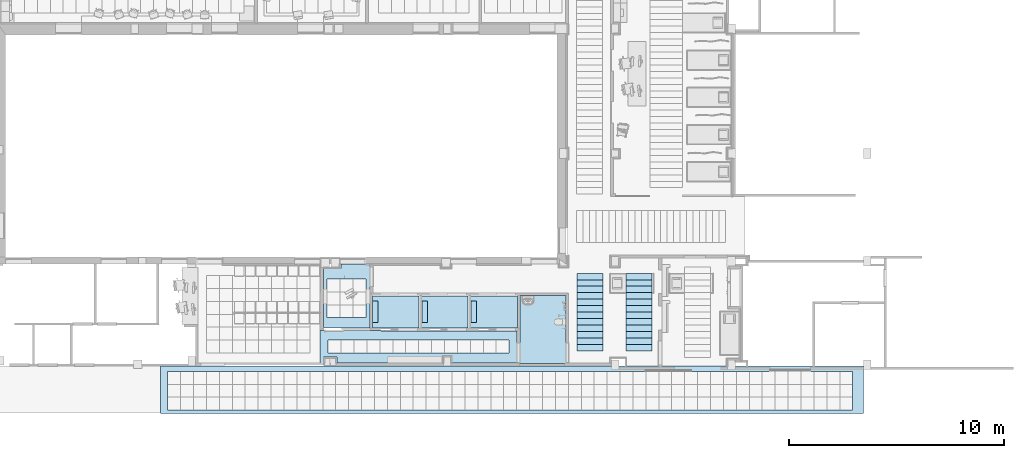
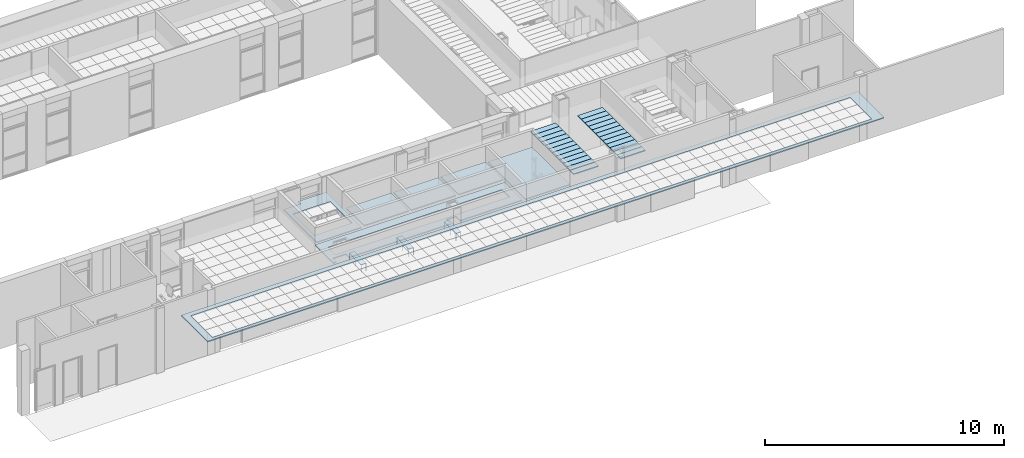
# One storey, part 2 of 68: 34 slabs.
"""IFC2X3 building model written with IfcOpenShell, lengths in millimetres."""

from ifc_helpers import new_model, entity, si_unit, converted_unit, derived_unit, money_unit, direction, frame, origin_with_axes, place, context, subcontext, project, spatial, polyline, outline, extrude, faceted_brep, source, transform, mapped, material, layer, layer_set, layer_usage, type_object, element, save


model = new_model("IFC2X3")

# Units and contexts
model_context = context("Model", 3, precision=0.01, world=origin_with_axes(), true_north=direction((0.0, 1.0)))
body_context = subcontext(model_context, "Body", "Model", "MODEL_VIEW")
ifc_project = project(units=[si_unit("LENGTHUNIT", "METRE", prefix="MILLI"), si_unit("AREAUNIT", "SQUARE_METRE"), si_unit("VOLUMEUNIT", "CUBIC_METRE"), converted_unit("PLANEANGLEUNIT", "DEGREE", entity("IfcPlaneAngleMeasure", 0.0174532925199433), si_unit("PLANEANGLEUNIT", "RADIAN"), dimensions=[0, 0, 0, 0, 0, 0, 0]), money_unit("USD"), converted_unit("TIMEUNIT", "Year", entity("IfcTimeMeasure", 31557600.0), si_unit("TIMEUNIT", "SECOND"), dimensions=[0, 0, 1, 0, 0, 0, 0]), si_unit("MASSUNIT", "GRAM", prefix="KILO"), si_unit("THERMODYNAMICTEMPERATUREUNIT", "DEGREE_CELSIUS"), si_unit("LUMINOUSINTENSITYUNIT", "LUMEN"), si_unit("ENERGYUNIT", "JOULE", prefix="MEGA"), derived_unit("THERMALCONDUCTANCEUNIT", [(si_unit("POWERUNIT", "WATT"), 1), (si_unit("LENGTHUNIT", "METRE"), -1), (si_unit("THERMODYNAMICTEMPERATUREUNIT", "KELVIN"), -1)]), derived_unit("SPECIFICHEATCAPACITYUNIT", [(si_unit("ENERGYUNIT", "JOULE"), 1), (si_unit("MASSUNIT", "GRAM", prefix="KILO"), -1), (si_unit("THERMODYNAMICTEMPERATUREUNIT", "KELVIN"), -1)]), derived_unit("MASSDENSITYUNIT", [(si_unit("MASSUNIT", "GRAM", prefix="KILO"), 1), (si_unit("VOLUMEUNIT", "CUBIC_METRE"), -1)])], contexts=[model_context])

# Site, building, storey
site_placement = place(None, origin_with_axes())
site = spatial("IfcSite", under=ifc_project, at=site_placement, Name="Sitio", CompositionType="ELEMENT")
building_placement = place(site_placement, origin_with_axes())
building = spatial("IfcBuilding", under=site, at=building_placement, Name="Construcción", CompositionType="ELEMENT")
storey_placement = place(building_placement, origin_with_axes())
storey = spatial("IfcBuildingStorey", under=building, at=storey_placement, Name="PLANTA 1ª", CompositionType="ELEMENT", Elevation=0.0)

# Slabs
slab_type_1 = type_object("IfcSlabType", Name="Banco 27", PredefinedType="FLOOR")
shared_shape = source(origin_with_axes(), body_context, "Body", "Brep", [
    faceted_brep([(-20.0, 0.0, 0.0), (-20.0, 20.0, 0.0), (0.0, 20.0, 0.0), (0.0, 0.0, 0.0), (-20.0, 0.0, 385.0), (-20.0, 20.0, 385.0), (0.0, 20.0, 385.0), (0.0, 0.0, 385.0)], [[[0, 1, 2, 3]], [[0, 4, 5, 1]], [[1, 5, 6, 2]], [[2, 6, 7, 3]], [[3, 7, 4, 0]], [[7, 6, 5, 4]]]),
    faceted_brep([(-20.0, 230.0, 0.0), (-20.0, 250.0, 0.0), (0.0, 250.0, 0.0), (0.0, 230.0, 0.0), (-20.0, 230.0, 385.0), (-20.0, 250.0, 385.0), (0.0, 250.0, 385.0), (0.0, 230.0, 385.0)], [[[0, 1, 2, 3]], [[0, 4, 5, 1]], [[1, 5, 6, 2]], [[2, 6, 7, 3]], [[3, 7, 4, 0]], [[7, 6, 5, 4]]]),
    faceted_brep([(-1000.0, 0.0, 0.0), (-1000.0, 20.0, 0.0), (-980.0, 20.0, 0.0), (-980.0, 0.0, 0.0), (-1000.0, 0.0, 385.0), (-1000.0, 20.0, 385.0), (-980.0, 20.0, 385.0), (-980.0, 0.0, 385.0)], [[[0, 1, 2, 3]], [[0, 4, 5, 1]], [[1, 5, 6, 2]], [[2, 6, 7, 3]], [[3, 7, 4, 0]], [[7, 6, 5, 4]]]),
    faceted_brep([(-1000.0, 230.0, 0.0), (-1000.0, 250.0, 0.0), (-980.0, 250.0, 0.0), (-980.0, 230.0, 0.0), (-1000.0, 230.0, 385.0), (-1000.0, 250.0, 385.0), (-980.0, 250.0, 385.0), (-980.0, 230.0, 385.0)], [[[0, 1, 2, 3]], [[0, 4, 5, 1]], [[1, 5, 6, 2]], [[2, 6, 7, 3]], [[3, 7, 4, 0]], [[7, 6, 5, 4]]]),
    faceted_brep([(-510.0, 0.0, 0.0), (-510.0, 20.0, 0.0), (-490.0, 20.0, 0.0), (-490.0, 0.0, 0.0), (-510.0, 0.0, 385.0), (-510.0, 20.0, 385.0), (-490.0, 20.0, 385.0), (-490.0, 0.0, 385.0)], [[[0, 1, 2, 3]], [[0, 4, 5, 1]], [[1, 5, 6, 2]], [[2, 6, 7, 3]], [[3, 7, 4, 0]], [[7, 6, 5, 4]]]),
    faceted_brep([(-510.0, 230.0, 0.0), (-510.0, 250.0, 0.0), (-490.0, 250.0, 0.0), (-490.0, 230.0, 0.0), (-510.0, 230.0, 385.0), (-510.0, 250.0, 385.0), (-490.0, 250.0, 385.0), (-490.0, 230.0, 385.0)], [[[0, 1, 2, 3]], [[0, 4, 5, 1]], [[1, 5, 6, 2]], [[2, 6, 7, 3]], [[3, 7, 4, 0]], [[7, 6, 5, 4]]]),
    faceted_brep([(-490.0, 0.0, 365.0000000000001), (-490.0, 20.0, 365.0000000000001), (-20.0, 20.0, 365.0000000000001), (-20.0, 0.0, 365.0000000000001), (-490.0, 0.0, 385.0000000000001), (-490.0, 20.0, 385.0000000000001), (-20.0, 20.0, 385.0000000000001), (-20.0, 0.0, 385.0000000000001)], [[[0, 1, 2, 3]], [[0, 4, 5, 1]], [[1, 5, 6, 2]], [[2, 6, 7, 3]], [[3, 7, 4, 0]], [[7, 6, 5, 4]]]),
    faceted_brep([(-980.0, 0.0, 365.0000000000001), (-980.0, 20.0, 365.0000000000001), (-510.0, 20.0, 365.0000000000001), (-510.0, 0.0, 365.0000000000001), (-980.0, 0.0, 385.0000000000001), (-980.0, 20.0, 385.0000000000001), (-510.0, 20.0, 385.0000000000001), (-510.0, 0.0, 385.0000000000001)], [[[0, 1, 2, 3]], [[0, 4, 5, 1]], [[1, 5, 6, 2]], [[2, 6, 7, 3]], [[3, 7, 4, 0]], [[7, 6, 5, 4]]]),
    faceted_brep([(-490.0, 230.0, 365.0000000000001), (-490.0, 250.0, 365.0000000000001), (-20.0, 250.0, 365.0000000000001), (-20.0, 230.0, 365.0000000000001), (-490.0, 230.0, 385.0000000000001), (-490.0, 250.0, 385.0000000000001), (-20.0, 250.0, 385.0000000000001), (-20.0, 230.0, 385.0000000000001)], [[[0, 1, 2, 3]], [[0, 4, 5, 1]], [[1, 5, 6, 2]], [[2, 6, 7, 3]], [[3, 7, 4, 0]], [[7, 6, 5, 4]]]),
    faceted_brep([(-980.0, 230.0, 365.0000000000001), (-980.0, 250.0, 365.0000000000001), (-510.0, 250.0, 365.0000000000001), (-510.0, 230.0, 365.0000000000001), (-980.0, 230.0, 385.0000000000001), (-980.0, 250.0, 385.0000000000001), (-510.0, 250.0, 385.0000000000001), (-510.0, 230.0, 385.0000000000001)], [[[0, 1, 2, 3]], [[0, 4, 5, 1]], [[1, 5, 6, 2]], [[2, 6, 7, 3]], [[3, 7, 4, 0]], [[7, 6, 5, 4]]]),
    faceted_brep([(-20.0, 20.0, 365.0000000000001), (-20.0, 230.0, 365.0000000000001), (0.0, 230.0, 365.0000000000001), (0.0, 20.0, 365.0000000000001), (-20.0, 20.0, 385.0000000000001), (-20.0, 230.0, 385.0000000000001), (0.0, 230.0, 385.0000000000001), (0.0, 20.0, 385.0000000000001)], [[[0, 1, 2, 3]], [[0, 4, 5, 1]], [[1, 5, 6, 2]], [[2, 6, 7, 3]], [[3, 7, 4, 0]], [[7, 6, 5, 4]]]),
    faceted_brep([(-510.0, 20.0, 365.0000000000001), (-510.0, 230.0, 365.0000000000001), (-490.0, 230.0, 365.0000000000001), (-490.0, 20.0, 365.0000000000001), (-510.0, 20.0, 385.0000000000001), (-510.0, 230.0, 385.0000000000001), (-490.0, 230.0, 385.0000000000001), (-490.0, 20.0, 385.0000000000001)], [[[0, 1, 2, 3]], [[0, 4, 5, 1]], [[1, 5, 6, 2]], [[2, 6, 7, 3]], [[3, 7, 4, 0]], [[7, 6, 5, 4]]]),
    faceted_brep([(-1000.0, 20.0, 365.0000000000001), (-1000.0, 230.0, 365.0000000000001), (-980.0, 230.0, 365.0000000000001), (-980.0, 20.0, 365.0000000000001), (-1000.0, 20.0, 385.0000000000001), (-1000.0, 230.0, 385.0000000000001), (-980.0, 230.0, 385.0000000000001), (-980.0, 20.0, 385.0000000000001)], [[[0, 1, 2, 3]], [[0, 4, 5, 1]], [[1, 5, 6, 2]], [[2, 6, 7, 3]], [[3, 7, 4, 0]], [[7, 6, 5, 4]]]),
    faceted_brep([(0.0, 0.0, 385.0), (0.0, 0.0, 400.0), (-1000.0, 0.0, 400.0), (-1000.0, 0.0, 385.0), (0.0, 250.0, 385.0), (0.0, 250.0, 400.0), (-1000.0, 250.0, 400.0), (-1000.0, 250.0, 385.0)], [[[0, 1, 2, 3]], [[4, 5, 1, 0]], [[1, 5, 6, 2]], [[3, 2, 6, 7]], [[0, 3, 7, 4]], [[7, 6, 5, 4]]]),
])
for number, where, z_axis, x_axis in (
    (1, (-6086.086499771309, -15061.29409037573, 0.0), (0.0, 0.0, 1.0), (0.0, -1.0, 0.0)),
    (2, (-8367.414822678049, -15062.56034434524, 0.0), (0.0, 0.0, 1.0), (0.0, -1.0, 0.0)),
    (3, (-10652.44274463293, -15059.73796522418, 0.0), (0.0, 0.0, 1.0), (0.0, -1.0, 0.0)),
):
    element("IfcSlab", number, at=place(storey_placement, frame(where, z_axis=z_axis, x_axis=x_axis)), inside=storey, type_object=slab_type_1, Name="60.20.39 Armari", PredefinedType="FLOOR", context=body_context, shape_type="MappedRepresentation", body=[
        mapped(shared_shape, transform((0.0, 0.0, 0.0))),
    ])
ifc_material_1 = material(Name="ARQ_ME126_CelRas_Placa_Metallica")
ifc_layer_1 = layer(ifc_material_1, 50.0, ventilated="UNKNOWN")
ifc_layer_set_1 = layer_set([ifc_layer_1], Name="ARQ_ME126_CelRas_Placa_Metallica 50")
ifc_layer_usage_1 = layer_usage(ifc_layer_set_1, "AXIS3", "NEGATIVE", 50.0)
slab_type_2 = type_object("IfcSlabType", Name="ARQ_ME126_CelRas_Placa_Metallica 50", PredefinedType="NOTDEFINED")
slab_1_placement = place(storey_placement, frame((-1162.002209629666, -16371.4759060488, 2500.0), z_axis=(0.0, 0.0, 1.0), x_axis=(1.0, 0.0, 0.0)))
element("IfcSlab", 4, at=slab_1_placement, inside=storey, type_object=slab_type_2, material=ifc_layer_usage_1, Name="SLA - 026", PredefinedType="NOTDEFINED", context=body_context, shape_type="SweptSolid", body=[
    extrude(outline(polyline([(0.0, 0.0), (1199.999999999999, 0.0), (1199.999999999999, 299.9999999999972), (0.0, 299.9999999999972), (0.0, 0.0)])), frame((0.0, 0.0, -50.0), z_axis=(0.0, 0.0, 1.0), x_axis=(1.0, 0.0, 0.0)), (0.0, 0.0, 1.0), 50.0),
])
ifc_layer_usage_2 = layer_usage(ifc_layer_set_1, "AXIS3", "NEGATIVE", 50.0)
slab_2_placement = place(storey_placement, frame((-1162.002209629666, -15771.4759060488, 2500.0), z_axis=(0.0, 0.0, 1.0), x_axis=(1.0, 0.0, 0.0)))
element("IfcSlab", 5, at=slab_2_placement, inside=storey, type_object=slab_type_2, material=ifc_layer_usage_2, Name="SLA - 026", PredefinedType="NOTDEFINED", context=body_context, shape_type="SweptSolid", body=[
    extrude(outline(polyline([(0.0, 0.0), (1199.999999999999, 0.0), (1199.999999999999, 299.9999999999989), (0.0, 299.9999999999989), (0.0, 0.0)])), frame((0.0, 0.0, -50.0), z_axis=(0.0, 0.0, 1.0), x_axis=(1.0, 0.0, 0.0)), (0.0, 0.0, 1.0), 50.0),
])
ifc_layer_usage_3 = layer_usage(ifc_layer_set_1, "AXIS3", "NEGATIVE", 50.0)
slab_3_placement = place(storey_placement, frame((-1162.002209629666, -16071.4759060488, 2500.0), z_axis=(0.0, 0.0, 1.0), x_axis=(1.0, 0.0, 0.0)))
element("IfcSlab", 6, at=slab_3_placement, inside=storey, type_object=slab_type_2, material=ifc_layer_usage_3, Name="SLA - 026", PredefinedType="NOTDEFINED", context=body_context, shape_type="SweptSolid", body=[
    extrude(outline(polyline([(0.0, 0.0), (1199.999999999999, 0.0), (1199.999999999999, 299.9999999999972), (0.0, 299.9999999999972), (0.0, 0.0)])), frame((0.0, 0.0, -50.0), z_axis=(0.0, 0.0, 1.0), x_axis=(1.0, 0.0, 0.0)), (0.0, 0.0, 1.0), 50.0),
])
ifc_layer_usage_4 = layer_usage(ifc_layer_set_1, "AXIS3", "NEGATIVE", 50.0)
slab_4_placement = place(storey_placement, frame((-1162.002209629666, -15171.4759060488, 2500.0), z_axis=(0.0, 0.0, 1.0), x_axis=(1.0, 0.0, 0.0)))
element("IfcSlab", 7, at=slab_4_placement, inside=storey, type_object=slab_type_2, material=ifc_layer_usage_4, Name="SLA - 026", PredefinedType="NOTDEFINED", context=body_context, shape_type="SweptSolid", body=[
    extrude(outline(polyline([(0.0, 0.0), (1199.999999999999, 0.0), (1199.999999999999, 299.9999999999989), (0.0, 299.9999999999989), (0.0, 0.0)])), frame((0.0, 0.0, -50.0), z_axis=(0.0, 0.0, 1.0), x_axis=(1.0, 0.0, 0.0)), (0.0, 0.0, 1.0), 50.0),
])
ifc_layer_usage_5 = layer_usage(ifc_layer_set_1, "AXIS3", "NEGATIVE", 50.0)
slab_5_placement = place(storey_placement, frame((-1162.002209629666, -15471.4759060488, 2500.0), z_axis=(0.0, 0.0, 1.0), x_axis=(1.0, 0.0, 0.0)))
element("IfcSlab", 8, at=slab_5_placement, inside=storey, type_object=slab_type_2, material=ifc_layer_usage_5, Name="SLA - 026", PredefinedType="NOTDEFINED", context=body_context, shape_type="SweptSolid", body=[
    extrude(outline(polyline([(0.0, 0.0), (1199.999999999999, 0.0), (1199.999999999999, 299.9999999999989), (0.0, 299.9999999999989), (0.0, 0.0)])), frame((0.0, 0.0, -50.0), z_axis=(0.0, 0.0, 1.0), x_axis=(1.0, 0.0, 0.0)), (0.0, 0.0, 1.0), 50.0),
])
ifc_layer_usage_6 = layer_usage(ifc_layer_set_1, "AXIS3", "NEGATIVE", 50.0)
slab_6_placement = place(storey_placement, frame((-1162.002209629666, -14871.4759060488, 2500.0), z_axis=(0.0, 0.0, 1.0), x_axis=(1.0, 0.0, 0.0)))
element("IfcSlab", 9, at=slab_6_placement, inside=storey, type_object=slab_type_2, material=ifc_layer_usage_6, Name="SLA - 026", PredefinedType="NOTDEFINED", context=body_context, shape_type="SweptSolid", body=[
    extrude(outline(polyline([(0.0, 0.0), (1199.999999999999, 0.0), (1199.999999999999, 299.9999999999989), (0.0, 299.9999999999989), (0.0, 0.0)])), frame((0.0, 0.0, -50.0), z_axis=(0.0, 0.0, 1.0), x_axis=(1.0, 0.0, 0.0)), (0.0, 0.0, 1.0), 50.0),
])
ifc_layer_usage_7 = layer_usage(ifc_layer_set_1, "AXIS3", "NEGATIVE", 50.0)
slab_7_placement = place(storey_placement, frame((-1162.002209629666, -14571.4759060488, 2500.0), z_axis=(0.0, 0.0, 1.0), x_axis=(1.0, 0.0, 0.0)))
element("IfcSlab", 10, at=slab_7_placement, inside=storey, type_object=slab_type_2, material=ifc_layer_usage_7, Name="SLA - 026", PredefinedType="NOTDEFINED", context=body_context, shape_type="SweptSolid", body=[
    extrude(outline(polyline([(0.0, 0.0), (1199.999999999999, 0.0), (1199.999999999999, 299.9999999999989), (0.0, 299.9999999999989), (0.0, 0.0)])), frame((0.0, 0.0, -50.0), z_axis=(0.0, 0.0, 1.0), x_axis=(1.0, 0.0, 0.0)), (0.0, 0.0, 1.0), 50.0),
])
ifc_layer_usage_8 = layer_usage(ifc_layer_set_1, "AXIS3", "NEGATIVE", 50.0)
slab_8_placement = place(storey_placement, frame((-1162.002209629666, -14271.4759060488, 2500.0), z_axis=(0.0, 0.0, 1.0), x_axis=(1.0, 0.0, 0.0)))
element("IfcSlab", 11, at=slab_8_placement, inside=storey, type_object=slab_type_2, material=ifc_layer_usage_8, Name="SLA - 026", PredefinedType="NOTDEFINED", context=body_context, shape_type="SweptSolid", body=[
    extrude(outline(polyline([(0.0, 0.0), (1199.999999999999, 0.0), (1199.999999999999, 299.9999999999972), (0.0, 299.9999999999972), (0.0, 0.0)])), frame((0.0, 0.0, -50.0), z_axis=(0.0, 0.0, 1.0), x_axis=(1.0, 0.0, 0.0)), (0.0, 0.0, 1.0), 50.0),
])
ifc_layer_usage_9 = layer_usage(ifc_layer_set_1, "AXIS3", "NEGATIVE", 50.0)
slab_9_placement = place(storey_placement, frame((-1162.002209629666, -13971.4759060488, 2500.0), z_axis=(0.0, 0.0, 1.0), x_axis=(1.0, 0.0, 0.0)))
element("IfcSlab", 12, at=slab_9_placement, inside=storey, type_object=slab_type_2, material=ifc_layer_usage_9, Name="SLA - 026", PredefinedType="NOTDEFINED", context=body_context, shape_type="SweptSolid", body=[
    extrude(outline(polyline([(0.0, 0.0), (1199.999999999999, 0.0), (1199.999999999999, 299.9999999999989), (0.0, 299.9999999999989), (0.0, 0.0)])), frame((0.0, 0.0, -50.0), z_axis=(0.0, 0.0, 1.0), x_axis=(1.0, 0.0, 0.0)), (0.0, 0.0, 1.0), 50.0),
])
ifc_layer_usage_10 = layer_usage(ifc_layer_set_1, "AXIS3", "NEGATIVE", 50.0)
slab_10_placement = place(storey_placement, frame((-1162.002209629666, -13671.4759060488, 2500.0), z_axis=(0.0, 0.0, 1.0), x_axis=(1.0, 0.0, 0.0)))
element("IfcSlab", 13, at=slab_10_placement, inside=storey, type_object=slab_type_2, material=ifc_layer_usage_10, Name="SLA - 026", PredefinedType="NOTDEFINED", context=body_context, shape_type="SweptSolid", body=[
    extrude(outline(polyline([(0.0, 0.0), (1199.999999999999, 0.0), (1199.999999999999, 299.9999999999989), (0.0, 299.9999999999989), (0.0, 0.0)])), frame((0.0, 0.0, -50.0), z_axis=(0.0, 0.0, 1.0), x_axis=(1.0, 0.0, 0.0)), (0.0, 0.0, 1.0), 50.0),
])
ifc_layer_usage_11 = layer_usage(ifc_layer_set_1, "AXIS3", "NEGATIVE", 50.0)
slab_11_placement = place(storey_placement, frame((-1162.002209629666, -13371.4759060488, 2500.0), z_axis=(0.0, 0.0, 1.0), x_axis=(1.0, 0.0, 0.0)))
element("IfcSlab", 14, at=slab_11_placement, inside=storey, type_object=slab_type_2, material=ifc_layer_usage_11, Name="SLA - 026", PredefinedType="NOTDEFINED", context=body_context, shape_type="SweptSolid", body=[
    extrude(outline(polyline([(0.0, 0.0), (1199.999999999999, 0.0), (1199.999999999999, 299.9999999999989), (0.0, 299.9999999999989), (0.0, 0.0)])), frame((0.0, 0.0, -50.0), z_axis=(0.0, 0.0, 1.0), x_axis=(1.0, 0.0, 0.0)), (0.0, 0.0, 1.0), 50.0),
])
ifc_layer_usage_12 = layer_usage(ifc_layer_set_1, "AXIS3", "NEGATIVE", 50.0)
slab_12_placement = place(storey_placement, frame((-1162.002209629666, -13071.4759060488, 2500.0), z_axis=(0.0, 0.0, 1.0), x_axis=(1.0, 0.0, 0.0)))
element("IfcSlab", 15, at=slab_12_placement, inside=storey, type_object=slab_type_2, material=ifc_layer_usage_12, Name="SLA - 026", PredefinedType="NOTDEFINED", context=body_context, shape_type="SweptSolid", body=[
    extrude(outline(polyline([(0.0, 0.0), (1199.999999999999, 0.0), (1199.999999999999, 299.9999999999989), (0.0, 299.9999999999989), (0.0, 0.0)])), frame((0.0, 0.0, -50.0), z_axis=(0.0, 0.0, 1.0), x_axis=(1.0, 0.0, 0.0)), (0.0, 0.0, 1.0), 50.0),
])
ifc_layer_usage_13 = layer_usage(ifc_layer_set_1, "AXIS3", "NEGATIVE", 50.0)
slab_13_placement = place(storey_placement, frame((1109.364189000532, -13071.4759060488, 2500.0), z_axis=(0.0, 0.0, 1.0), x_axis=(1.0, 0.0, 0.0)))
element("IfcSlab", 16, at=slab_13_placement, inside=storey, type_object=slab_type_2, material=ifc_layer_usage_13, Name="SLA - 026", PredefinedType="NOTDEFINED", context=body_context, shape_type="SweptSolid", body=[
    extrude(outline(polyline([(0.0, 0.0), (1199.999999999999, 0.0), (1199.999999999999, 299.9999999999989), (0.0, 299.9999999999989), (0.0, 0.0)])), frame((0.0, 0.0, -50.0), z_axis=(0.0, 0.0, 1.0), x_axis=(1.0, 0.0, 0.0)), (0.0, 0.0, 1.0), 50.0),
])
ifc_layer_usage_14 = layer_usage(ifc_layer_set_1, "AXIS3", "NEGATIVE", 50.0)
slab_14_placement = place(storey_placement, frame((1109.364189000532, -13671.4759060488, 2500.0), z_axis=(0.0, 0.0, 1.0), x_axis=(1.0, 0.0, 0.0)))
element("IfcSlab", 17, at=slab_14_placement, inside=storey, type_object=slab_type_2, material=ifc_layer_usage_14, Name="SLA - 026", PredefinedType="NOTDEFINED", context=body_context, shape_type="SweptSolid", body=[
    extrude(outline(polyline([(0.0, 0.0), (1199.999999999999, 0.0), (1199.999999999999, 299.9999999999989), (0.0, 299.9999999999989), (0.0, 0.0)])), frame((0.0, 0.0, -50.0), z_axis=(0.0, 0.0, 1.0), x_axis=(1.0, 0.0, 0.0)), (0.0, 0.0, 1.0), 50.0),
])
ifc_layer_usage_15 = layer_usage(ifc_layer_set_1, "AXIS3", "NEGATIVE", 50.0)
slab_15_placement = place(storey_placement, frame((1109.364189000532, -13971.4759060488, 2500.0), z_axis=(0.0, 0.0, 1.0), x_axis=(1.0, 0.0, 0.0)))
element("IfcSlab", 18, at=slab_15_placement, inside=storey, type_object=slab_type_2, material=ifc_layer_usage_15, Name="SLA - 026", PredefinedType="NOTDEFINED", context=body_context, shape_type="SweptSolid", body=[
    extrude(outline(polyline([(0.0, 0.0), (1199.999999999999, 0.0), (1199.999999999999, 299.9999999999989), (0.0, 299.9999999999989), (0.0, 0.0)])), frame((0.0, 0.0, -50.0), z_axis=(0.0, 0.0, 1.0), x_axis=(1.0, 0.0, 0.0)), (0.0, 0.0, 1.0), 50.0),
])
ifc_layer_usage_16 = layer_usage(ifc_layer_set_1, "AXIS3", "NEGATIVE", 50.0)
slab_16_placement = place(storey_placement, frame((1109.364189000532, -14271.4759060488, 2500.0), z_axis=(0.0, 0.0, 1.0), x_axis=(1.0, 0.0, 0.0)))
element("IfcSlab", 19, at=slab_16_placement, inside=storey, type_object=slab_type_2, material=ifc_layer_usage_16, Name="SLA - 026", PredefinedType="NOTDEFINED", context=body_context, shape_type="SweptSolid", body=[
    extrude(outline(polyline([(0.0, 0.0), (1199.999999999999, 0.0), (1199.999999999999, 299.9999999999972), (0.0, 299.9999999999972), (0.0, 0.0)])), frame((0.0, 0.0, -50.0), z_axis=(0.0, 0.0, 1.0), x_axis=(1.0, 0.0, 0.0)), (0.0, 0.0, 1.0), 50.0),
])
ifc_layer_usage_17 = layer_usage(ifc_layer_set_1, "AXIS3", "NEGATIVE", 50.0)
slab_17_placement = place(storey_placement, frame((1109.364189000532, -14871.4759060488, 2500.0), z_axis=(0.0, 0.0, 1.0), x_axis=(1.0, 0.0, 0.0)))
element("IfcSlab", 20, at=slab_17_placement, inside=storey, type_object=slab_type_2, material=ifc_layer_usage_17, Name="SLA - 026", PredefinedType="NOTDEFINED", context=body_context, shape_type="SweptSolid", body=[
    extrude(outline(polyline([(0.0, 0.0), (1199.999999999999, 0.0), (1199.999999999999, 299.9999999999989), (0.0, 299.9999999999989), (0.0, 0.0)])), frame((0.0, 0.0, -50.0), z_axis=(0.0, 0.0, 1.0), x_axis=(1.0, 0.0, 0.0)), (0.0, 0.0, 1.0), 50.0),
])
ifc_layer_usage_18 = layer_usage(ifc_layer_set_1, "AXIS3", "NEGATIVE", 50.0)
slab_18_placement = place(storey_placement, frame((1109.364189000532, -14571.4759060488, 2500.0), z_axis=(0.0, 0.0, 1.0), x_axis=(1.0, 0.0, 0.0)))
element("IfcSlab", 21, at=slab_18_placement, inside=storey, type_object=slab_type_2, material=ifc_layer_usage_18, Name="SLA - 026", PredefinedType="NOTDEFINED", context=body_context, shape_type="SweptSolid", body=[
    extrude(outline(polyline([(0.0, 0.0), (1199.999999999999, 0.0), (1199.999999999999, 299.9999999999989), (0.0, 299.9999999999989), (0.0, 0.0)])), frame((0.0, 0.0, -50.0), z_axis=(0.0, 0.0, 1.0), x_axis=(1.0, 0.0, 0.0)), (0.0, 0.0, 1.0), 50.0),
])
ifc_layer_usage_19 = layer_usage(ifc_layer_set_1, "AXIS3", "NEGATIVE", 50.0)
slab_19_placement = place(storey_placement, frame((1109.364189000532, -15171.4759060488, 2500.0), z_axis=(0.0, 0.0, 1.0), x_axis=(1.0, 0.0, 0.0)))
element("IfcSlab", 22, at=slab_19_placement, inside=storey, type_object=slab_type_2, material=ifc_layer_usage_19, Name="SLA - 026", PredefinedType="NOTDEFINED", context=body_context, shape_type="SweptSolid", body=[
    extrude(outline(polyline([(0.0, 0.0), (1199.999999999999, 0.0), (1199.999999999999, 299.9999999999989), (0.0, 299.9999999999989), (0.0, 0.0)])), frame((0.0, 0.0, -50.0), z_axis=(0.0, 0.0, 1.0), x_axis=(1.0, 0.0, 0.0)), (0.0, 0.0, 1.0), 50.0),
])
ifc_layer_usage_20 = layer_usage(ifc_layer_set_1, "AXIS3", "NEGATIVE", 50.0)
slab_20_placement = place(storey_placement, frame((1109.364189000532, -15471.4759060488, 2500.0), z_axis=(0.0, 0.0, 1.0), x_axis=(1.0, 0.0, 0.0)))
element("IfcSlab", 23, at=slab_20_placement, inside=storey, type_object=slab_type_2, material=ifc_layer_usage_20, Name="SLA - 026", PredefinedType="NOTDEFINED", context=body_context, shape_type="SweptSolid", body=[
    extrude(outline(polyline([(0.0, 0.0), (1199.999999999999, 0.0), (1199.999999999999, 299.9999999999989), (0.0, 299.9999999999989), (0.0, 0.0)])), frame((0.0, 0.0, -50.0), z_axis=(0.0, 0.0, 1.0), x_axis=(1.0, 0.0, 0.0)), (0.0, 0.0, 1.0), 50.0),
])
ifc_layer_usage_21 = layer_usage(ifc_layer_set_1, "AXIS3", "NEGATIVE", 50.0)
slab_21_placement = place(storey_placement, frame((1109.364189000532, -15771.4759060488, 2500.0), z_axis=(0.0, 0.0, 1.0), x_axis=(1.0, 0.0, 0.0)))
element("IfcSlab", 24, at=slab_21_placement, inside=storey, type_object=slab_type_2, material=ifc_layer_usage_21, Name="SLA - 026", PredefinedType="NOTDEFINED", context=body_context, shape_type="SweptSolid", body=[
    extrude(outline(polyline([(0.0, 0.0), (1199.999999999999, 0.0), (1199.999999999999, 299.9999999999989), (0.0, 299.9999999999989), (0.0, 0.0)])), frame((0.0, 0.0, -50.0), z_axis=(0.0, 0.0, 1.0), x_axis=(1.0, 0.0, 0.0)), (0.0, 0.0, 1.0), 50.0),
])
ifc_layer_usage_22 = layer_usage(ifc_layer_set_1, "AXIS3", "NEGATIVE", 50.0)
slab_22_placement = place(storey_placement, frame((1109.364189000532, -16071.4759060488, 2500.0), z_axis=(0.0, 0.0, 1.0), x_axis=(1.0, 0.0, 0.0)))
element("IfcSlab", 25, at=slab_22_placement, inside=storey, type_object=slab_type_2, material=ifc_layer_usage_22, Name="SLA - 026", PredefinedType="NOTDEFINED", context=body_context, shape_type="SweptSolid", body=[
    extrude(outline(polyline([(0.0, 0.0), (1199.999999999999, 0.0), (1199.999999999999, 299.9999999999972), (0.0, 299.9999999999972), (0.0, 0.0)])), frame((0.0, 0.0, -50.0), z_axis=(0.0, 0.0, 1.0), x_axis=(1.0, 0.0, 0.0)), (0.0, 0.0, 1.0), 50.0),
])
ifc_layer_usage_23 = layer_usage(ifc_layer_set_1, "AXIS3", "NEGATIVE", 50.0)
slab_23_placement = place(storey_placement, frame((1109.364189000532, -16371.4759060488, 2500.0), z_axis=(0.0, 0.0, 1.0), x_axis=(1.0, 0.0, 0.0)))
element("IfcSlab", 26, at=slab_23_placement, inside=storey, type_object=slab_type_2, material=ifc_layer_usage_23, Name="SLA - 026", PredefinedType="NOTDEFINED", context=body_context, shape_type="SweptSolid", body=[
    extrude(outline(polyline([(0.0, 0.0), (1199.999999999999, 0.0), (1199.999999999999, 299.9999999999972), (0.0, 299.9999999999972), (0.0, 0.0)])), frame((0.0, 0.0, -50.0), z_axis=(0.0, 0.0, 1.0), x_axis=(1.0, 0.0, 0.0)), (0.0, 0.0, 1.0), 50.0),
])
ifc_layer_usage_24 = layer_usage(ifc_layer_set_1, "AXIS3", "NEGATIVE", 50.0)
slab_24_placement = place(storey_placement, frame((1109.364189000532, -13371.4759060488, 2500.0), z_axis=(0.0, 0.0, 1.0), x_axis=(1.0, 0.0, 0.0)))
element("IfcSlab", 27, at=slab_24_placement, inside=storey, type_object=slab_type_2, material=ifc_layer_usage_24, Name="SLA - 026", PredefinedType="NOTDEFINED", context=body_context, shape_type="SweptSolid", body=[
    extrude(outline(polyline([(0.0, 0.0), (1199.999999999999, 0.0), (1199.999999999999, 299.9999999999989), (0.0, 299.9999999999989), (0.0, 0.0)])), frame((0.0, 0.0, -50.0), z_axis=(0.0, 0.0, 1.0), x_axis=(1.0, 0.0, 0.0)), (0.0, 0.0, 1.0), 50.0),
])
ifc_material_2 = material(Name="ARQ_CG063_Guix_Laminat_Hydro")
ifc_layer_2 = layer(ifc_material_2, 53.0, ventilated="UNKNOWN")
ifc_layer_set_2 = layer_set([ifc_layer_2], Name="ARQ_CG063_Guix_Laminat_Hydro 53")
ifc_layer_usage_25 = layer_usage(ifc_layer_set_2, "AXIS3", "NEGATIVE", 53.0)
slab_type_3 = type_object("IfcSlabType", Name="ARQ_CG063_Guix_Laminat_Hydro 53", PredefinedType="NOTDEFINED")
slab_25_placement = place(storey_placement, frame((-3816.408696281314, -16949.97582371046, 2500.0), z_axis=(0.0, 0.0, 1.0), x_axis=(1.0, 0.0, 0.0)))
element("IfcSlab", 28, at=slab_25_placement, inside=storey, type_object=slab_type_3, material=ifc_layer_usage_25, Name="SLA - 024", PredefinedType="NOTDEFINED", context=body_context, shape_type="SweptSolid", body=[
    extrude(outline(polyline([(0.0, 0.0), (2127.098721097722, 0.0), (2129.411450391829, 3141.415168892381), (0.0, 3141.415168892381), (0.0, 0.0)])), frame((0.0, 0.0, -53.0), z_axis=(0.0, 0.0, 1.0), x_axis=(1.0, 0.0, 0.0)), (0.0, 0.0, 1.0), 53.0),
])
ifc_material_3 = material(Name="ARQ_CG064_CelRas_Guix_Continu")
ifc_layer_3 = layer(ifc_material_3, 53.0, ventilated="UNKNOWN")
ifc_layer_set_3 = layer_set([ifc_layer_3], Name="ARQ_CG064_CelRas_Guix_Continu 53")
ifc_layer_usage_26 = layer_usage(ifc_layer_set_3, "AXIS3", "NEGATIVE", 53.0)
slab_type_4 = type_object("IfcSlabType", Name="ARQ_CG064_CelRas_Guix_Continu 53", PredefinedType="NOTDEFINED")
slab_26_placement = place(storey_placement, frame((-8386.544034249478, -15315.59229144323, 2550.0), z_axis=(0.0, 0.0, 1.0), x_axis=(1.0, 0.0, 0.0)))
element("IfcSlab", 29, at=slab_26_placement, inside=storey, type_object=slab_type_4, material=ifc_layer_usage_26, Name="SLA - 013", PredefinedType="NOTDEFINED", context=body_context, shape_type="SweptSolid", body=[
    extrude(outline(polyline([(0.0, 0.0), (2158.457467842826, 0.0), (2158.457467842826, 1486.792136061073), (0.0, 1486.792136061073), (0.0, 0.0)])), frame((0.0, 0.0, -53.0), z_axis=(0.0, 0.0, 1.0), x_axis=(1.0, 0.0, 0.0)), (0.0, 0.0, 1.0), 53.0),
])
ifc_layer_usage_27 = layer_usage(ifc_layer_set_3, "AXIS3", "NEGATIVE", 53.0)
slab_27_placement = place(storey_placement, frame((-6108.282310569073, -15314.17325449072, 2550.0), z_axis=(0.0, 0.0, 1.0), x_axis=(1.0, 0.0, 0.0)))
element("IfcSlab", 30, at=slab_27_placement, inside=storey, type_object=slab_type_4, material=ifc_layer_usage_27, Name="SLA - 013", PredefinedType="NOTDEFINED", context=body_context, shape_type="SweptSolid", body=[
    extrude(outline(polyline([(0.0, 0.0), (2172.188051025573, 0.0), (2172.188051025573, 1485.612599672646), (2.195877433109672, 1485.612599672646), (0.0, 0.0)])), frame((0.0, 0.0, -53.0), z_axis=(0.0, 0.0, 1.0), x_axis=(1.0, 0.0, 0.0)), (0.0, 0.0, 1.0), 53.0),
])
ifc_layer_usage_28 = layer_usage(ifc_layer_set_3, "AXIS3", "NEGATIVE", 53.0)
slab_28_placement = place(storey_placement, frame((-10654.28150588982, -15304.59899942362, 2550.0), z_axis=(0.0, 0.0, 1.0), x_axis=(1.0, 0.0, 0.0)))
element("IfcSlab", 31, at=slab_28_placement, inside=storey, type_object=slab_type_4, material=ifc_layer_usage_28, Name="SLA - 014", PredefinedType="NOTDEFINED", context=body_context, shape_type="SweptSolid", body=[
    extrude(outline(polyline([(0.0, 0.0), (2157.967806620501, 0.0), (2157.967806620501, 1486.316967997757), (0.0, 1486.316967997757), (0.0, 0.0)])), frame((0.0, 0.0, -53.0), z_axis=(0.0, 0.0, 1.0), x_axis=(1.0, 0.0, 0.0)), (0.0, 0.0, 1.0), 53.0),
])
ifc_layer_usage_29 = layer_usage(ifc_layer_set_3, "AXIS3", "NEGATIVE", 53.0)
slab_29_placement = place(storey_placement, frame((-12939.13044086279, -15304.29665976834, 2500.0), z_axis=(0.0, 0.0, 1.0), x_axis=(1.0, 0.0, 0.0)))
element("IfcSlab", 32, at=slab_29_placement, inside=storey, type_object=slab_type_4, material=ifc_layer_usage_29, Name="SLA - 013", PredefinedType="NOTDEFINED", context=body_context, shape_type="SweptSolid", body=[
    extrude(outline(polyline([(0.0, 0.0), (2162.849248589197, 0.0), (2162.849248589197, 2963.59945945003), (806.7111782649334, 2963.59945945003), (806.7111782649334, 2755.014628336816), (0.0, 2755.014628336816), (0.0, 0.0)]), holes=[polyline([(175.4645033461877, 2273.228690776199), (1975.464503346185, 2273.228690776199), (1975.464503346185, 473.2286907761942), (175.4645033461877, 473.2286907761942), (175.4645033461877, 2273.228690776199)])]), frame((0.0, 0.0, -53.0), z_axis=(0.0, 0.0, 1.0), x_axis=(1.0, 0.0, 0.0)), (0.0, 0.0, 1.0), 53.0),
])
ifc_layer_usage_30 = layer_usage(ifc_layer_set_3, "AXIS3", "NEGATIVE", 53.0)
slab_30_placement = place(storey_placement, frame((-13089.29618573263, -16963.69720071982, 2500.0), z_axis=(0.0, 0.0, 1.0), x_axis=(1.0, 0.0, 0.0)))
element("IfcSlab", 33, at=slab_30_placement, inside=storey, type_object=slab_type_4, material=ifc_layer_usage_30, Name="SLA - 013", PredefinedType="NOTDEFINED", context=body_context, shape_type="SweptSolid", body=[
    extrude(outline(polyline([(0.0, 0.0), (152.6996011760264, 6.748166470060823e-07), (152.6995998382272, 302.7213775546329), (780.1043779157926, 302.7213769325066), (780.1043779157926, 25.72137700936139), (5668.401987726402, 25.72137700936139), (5668.401987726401, 382.7213770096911), (6124.401991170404, 382.7213770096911), (6124.401991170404, 25.72137700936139), (9138.896321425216, 25.72137700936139), (9139.99340163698, 1510.173151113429), (0.0, 1532.823885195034), (0.0, 0.0)]), holes=[polyline([(369.7202136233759, 1089.641288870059), (8769.72021362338, 1089.641288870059), (8769.72021362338, 489.6412888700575), (369.7202136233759, 489.6412888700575), (369.7202136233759, 1089.641288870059)])]), frame((0.0, 0.0, -53.0), z_axis=(0.0, 0.0, 1.0), x_axis=(1.0, 0.0, 0.0)), (0.0, 0.0, 1.0), 53.0),
])
ifc_layer_usage_31 = layer_usage(ifc_layer_set_3, "AXIS3", "NEGATIVE", 53.0)
slab_31_placement = place(storey_placement, frame((-20499.33210269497, -19283.97582371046, 2500.0), z_axis=(0.0, 0.0, 1.0), x_axis=(1.0, 0.0, 0.0)))
element("IfcSlab", 34, at=slab_31_placement, inside=storey, type_object=slab_type_4, material=ifc_layer_usage_31, Name="SLA - 014", PredefinedType="NOTDEFINED", context=body_context, shape_type="SweptSolid", body=[
    extrude(outline(polyline([(0.0, 0.0), (32628.22315034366, 0.0), (32628.22315034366, 2199.999999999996), (0.0, 2199.999999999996), (0.0, 0.0)]), holes=[polyline([(32129.6288193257, 1962.000059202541), (32129.6288193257, 162.000059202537), (329.6288193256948, 162.000059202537), (329.6288193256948, 1962.000059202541), (32129.6288193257, 1962.000059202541)])]), frame((0.0, 0.0, -53.0), z_axis=(0.0, 0.0, 1.0), x_axis=(1.0, 0.0, 0.0)), (0.0, 0.0, 1.0), 53.0),
])

save(model, "model.ifc")
